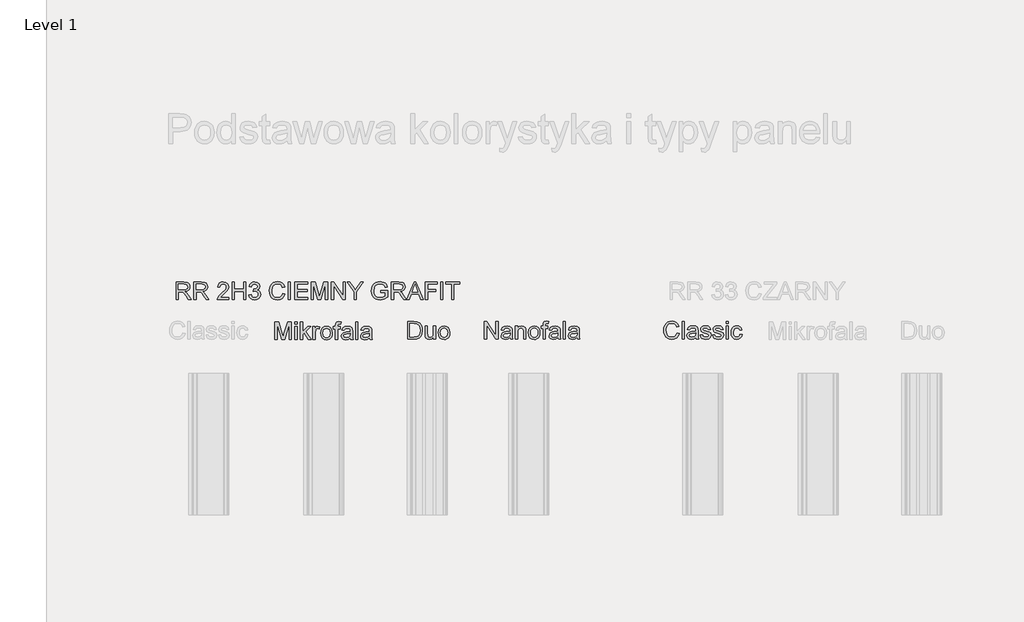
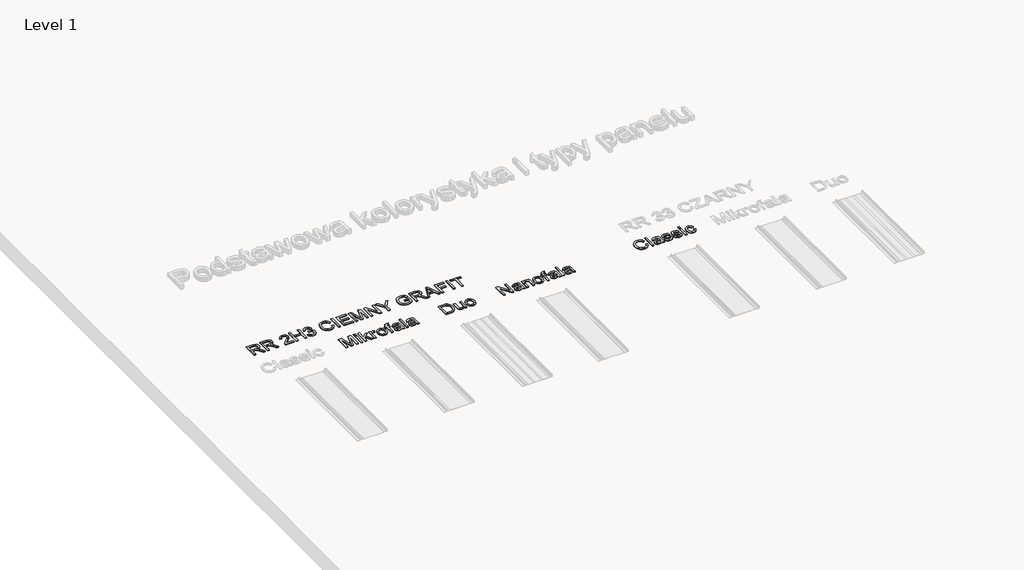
# One storey, part 19 of 24: 5 proxies.
"""IFC4 building model written with IfcOpenShell, lengths in millimetres."""

from ifc_helpers import new_model, si_unit, frame, origin, place, context, project, spatial, polyline, outline, extrude, element, save

model = new_model("IFC4")

# Units and contexts
model_context = context("Model", 3, world=origin())
ifc_project = project(units=[si_unit("LENGTHUNIT", "METRE", prefix="MILLI")], contexts=[model_context])

# Site, building, storey
site = spatial("IfcSite", under=ifc_project)
building = spatial("IfcBuilding", under=site)
storey = spatial("IfcBuildingStorey", under=building, Name="Level 1", Elevation=0.0)

# Proxies
placement = place(None, origin())
element("IfcBuildingElementProxy", 1, Name="150", ObjectType="150", at=placement, inside=storey, context=model_context, shape_type="SweptSolid", body=[
    extrude(outline(polyline([(-7895.6654959, 1124.718613), (-7895.6654959, 1275.4030782), (-7863.3654568, 1275.4030782), (-7832.4633692, 1169.1955462), (-7826.2093753, 1147.0122619), (-7819.4771347, 1171.0349562), (-7789.1636583, 1275.4030782), (-7756.7532546, 1275.4030782), (-7756.7532546, 1124.718613), (-7775.5888127, 1124.718613), (-7775.5888127, 1256.5675201), (-7813.44387, 1124.718613), (-7838.9380923, 1124.718613), (-7876.8299378, 1256.5675201), (-7876.8299378, 1124.718613), (-7895.6654959, 1124.718613)])), frame((0.0, 0.0, 600.0), z_axis=(0.0, 0.0, 1.0), x_axis=(1.0, 0.0, 0.0)), (0.0, 0.0, 1.0), 10.0),
    extrude(outline(polyline([(-7726.1454726, 1256.5675201), (-7726.1454726, 1275.4030782), (-7707.3099144, 1275.4030782), (-7707.3099144, 1256.5675201), (-7726.1454726, 1256.5675201)])), frame((0.0, 0.0, 600.0), z_axis=(0.0, 0.0, 1.0), x_axis=(1.0, 0.0, 0.0)), (0.0, 0.0, 1.0), 10.0),
    extrude(outline(polyline([(-7726.1454726, 1124.718613), (-7726.1454726, 1235.3775171), (-7707.3099144, 1235.3775171), (-7707.3099144, 1124.718613), (-7726.1454726, 1124.718613)])), frame((0.0, 0.0, 600.0), z_axis=(0.0, 0.0, 1.0), x_axis=(1.0, 0.0, 0.0)), (0.0, 0.0, 1.0), 10.0),
    extrude(outline(polyline([(-7679.0565772, 1124.718613), (-7679.0565772, 1275.4030782), (-7660.221019, 1275.4030782), (-7660.221019, 1194.4322511), (-7617.988166, 1235.3775171), (-7591.9421207, 1235.3775171), (-7634.7267968, 1193.9172163), (-7589.587676, 1124.718613), (-7611.5870193, 1124.718613), (-7648.228066, 1180.8206173), (-7660.221019, 1169.158758), (-7660.221019, 1124.718613), (-7679.0565772, 1124.718613)])), frame((0.0, 0.0, 600.0), z_axis=(0.0, 0.0, 1.0), x_axis=(1.0, 0.0, 0.0)), (0.0, 0.0, 1.0), 10.0),
    extrude(outline(polyline([(-7573.1065626, 1124.718613), (-7573.1065626, 1235.3775171), (-7556.6254492, 1235.3775171), (-7556.6254492, 1219.0067684), (-7544.9268017, 1234.0899302), (-7533.1545779, 1237.7319619), (-7514.2454433, 1231.9194264), (-7520.5362255, 1215.0336428), (-7533.7799773, 1218.8964038), (-7544.4301611, 1215.1807956), (-7551.2175839, 1204.8800997), (-7554.2710044, 1182.8807564), (-7554.2710044, 1124.718613), (-7573.1065626, 1124.718613)])), frame((0.0, 0.0, 600.0), z_axis=(0.0, 0.0, 1.0), x_axis=(1.0, 0.0, 0.0)), (0.0, 0.0, 1.0), 10.0),
    extrude(outline(polyline([(-7507.182109, 1180.0480651), (-7503.1078159, 1206.7287068), (-7490.8849367, 1225.4814915), (-7475.7833808, 1234.6693443), (-7457.7019807, 1237.7319619), (-7437.9145279, 1234.0025582), (-7422.1093977, 1222.814347), (-7411.748921, 1205.0502452), (-7408.2954287, 1181.5931694), (-7409.822139, 1162.5644732), (-7414.4022699, 1148.0791197), (-7421.902464, 1137.2311993), (-7432.1893643, 1129.1148028), (-7444.4076451, 1124.0518269), (-7457.7019807, 1122.3641682), (-7477.7285568, 1126.0797764), (-7493.5152929, 1137.2266008), (-7503.765405, 1155.3631832), (-7507.182109, 1180.0480651)]), holes=[polyline([(-7488.3465509, 1180.0848533), (-7486.1668501, 1163.0381213), (-7479.6277476, 1150.8934169), (-7469.7869042, 1143.623149), (-7457.7019807, 1141.1997264), (-7445.6722394, 1143.6369446), (-7435.8497902, 1150.9485992), (-7429.3106877, 1163.254252), (-7427.1309869, 1180.6734645), (-7429.3244833, 1197.2235557), (-7435.9049725, 1209.2027132), (-7445.7412173, 1216.4729811), (-7457.7019807, 1218.8964038), (-7469.7869042, 1216.4821782), (-7479.6277476, 1209.2395014), (-7486.1668501, 1197.1223882), (-7488.3465509, 1180.0848533)])]), frame((0.0, 0.0, 600.0), z_axis=(0.0, 0.0, 1.0), x_axis=(1.0, 0.0, 0.0)), (0.0, 0.0, 1.0), 10.0),
    extrude(outline(polyline([(-7382.3965363, 1124.718613), (-7382.3965363, 1216.541959), (-7398.8776497, 1216.541959), (-7398.8776497, 1235.3775171), (-7382.3965363, 1235.3775171), (-7382.3965363, 1246.5243416), (-7380.4099735, 1262.2329028), (-7370.7714652, 1273.4533036), (-7351.7887543, 1277.757523), (-7334.6086651, 1275.6973838), (-7337.3677801, 1258.039048), (-7348.2202989, 1258.9219648), (-7360.0844933, 1255.7949679), (-7363.5609781, 1244.1331086), (-7363.5609781, 1235.3775171), (-7342.3709752, 1235.3775171), (-7342.3709752, 1216.541959), (-7363.5609781, 1216.541959), (-7363.5609781, 1124.718613), (-7382.3965363, 1124.718613)])), frame((0.0, 0.0, 600.0), z_axis=(0.0, 0.0, 1.0), x_axis=(1.0, 0.0, 0.0)), (0.0, 0.0, 1.0), 10.0),
    extrude(outline(polyline([(-7255.2565187, 1138.8452816), (-7273.5218598, 1126.0797764), (-7293.7001872, 1122.3641682), (-7309.4409381, 1124.5990513), (-7321.0522136, 1131.3037007), (-7328.2121169, 1141.4848349), (-7330.5987514, 1154.1491726), (-7326.9935078, 1169.0483934), (-7317.5205464, 1179.8641241), (-7304.3319769, 1186.0445416), (-7288.0348045, 1188.8772329), (-7255.3668833, 1195.3519561), (-7255.2565187, 1199.5458108), (-7256.5533028, 1207.9519144), (-7260.4436549, 1213.4517502), (-7269.1440641, 1217.5352404), (-7281.2657758, 1218.8964038), (-7300.3220632, 1215.2727661), (-7309.4087484, 1202.4152904), (-7328.2443066, 1204.7697351), (-7320.0957204, 1223.1638349), (-7303.6881834, 1233.9427774), (-7278.8377546, 1237.7319619), (-7256.0106768, 1234.3842357), (-7243.1164129, 1225.9781322), (-7237.3406656, 1213.1942328), (-7236.4209606, 1196.7131194), (-7236.4209606, 1173.2790364), (-7235.4644674, 1140.5559329), (-7231.7120711, 1124.718613), (-7250.5476292, 1124.718613), (-7255.2565187, 1138.8452816)]), holes=[polyline([(-7255.2565187, 1176.5163979), (-7285.6435715, 1170.7406506), (-7301.8487734, 1167.68723), (-7309.1880192, 1162.7208231), (-7311.7631932, 1155.4735478), (-7306.1529928, 1145.2832165), (-7289.6902735, 1141.1997264), (-7270.6339861, 1145.7062808), (-7258.3467275, 1156.613982), (-7255.3668833, 1171.182109), (-7255.2565187, 1176.5163979)])]), frame((0.0, 0.0, 600.0), z_axis=(0.0, 0.0, 1.0), x_axis=(1.0, 0.0, 0.0)), (0.0, 0.0, 1.0), 10.0),
    extrude(outline(polyline([(-7210.5220681, 1124.718613), (-7210.5220681, 1275.4030782), (-7191.68651, 1275.4030782), (-7191.68651, 1124.718613), (-7210.5220681, 1124.718613)])), frame((0.0, 0.0, 600.0), z_axis=(0.0, 0.0, 1.0), x_axis=(1.0, 0.0, 0.0)), (0.0, 0.0, 1.0), 10.0),
    extrude(outline(polyline([(-7092.7998297, 1138.8452816), (-7111.0651707, 1126.0797764), (-7131.2434982, 1122.3641682), (-7146.984249, 1124.5990513), (-7158.5955245, 1131.3037007), (-7165.7554278, 1141.4848349), (-7168.1420623, 1154.1491726), (-7164.5368187, 1169.0483934), (-7155.0638574, 1179.8641241), (-7141.8752878, 1186.0445416), (-7125.5781154, 1188.8772329), (-7092.9101943, 1195.3519561), (-7092.7998297, 1199.5458108), (-7094.0966137, 1207.9519144), (-7097.9869658, 1213.4517502), (-7106.687375, 1217.5352404), (-7118.8090867, 1218.8964038), (-7137.8653741, 1215.2727661), (-7146.9520594, 1202.4152904), (-7165.7876175, 1204.7697351), (-7157.6390313, 1223.1638349), (-7141.2314943, 1233.9427774), (-7116.3810656, 1237.7319619), (-7093.5539878, 1234.3842357), (-7080.6597238, 1225.9781322), (-7074.8839765, 1213.1942328), (-7073.9642715, 1196.7131194), (-7073.9642715, 1173.2790364), (-7073.0077783, 1140.5559329), (-7069.255382, 1124.718613), (-7088.0909401, 1124.718613), (-7092.7998297, 1138.8452816)]), holes=[polyline([(-7092.7998297, 1176.5163979), (-7123.1868825, 1170.7406506), (-7139.3920844, 1167.68723), (-7146.7313302, 1162.7208231), (-7149.3065041, 1155.4735478), (-7143.6963037, 1145.2832165), (-7127.2335844, 1141.1997264), (-7108.1772971, 1145.7062808), (-7095.8900384, 1156.613982), (-7092.9101943, 1171.182109), (-7092.7998297, 1176.5163979)])]), frame((0.0, 0.0, 600.0), z_axis=(0.0, 0.0, 1.0), x_axis=(1.0, 0.0, 0.0)), (0.0, 0.0, 1.0), 10.0),
])
element("IfcBuildingElementProxy", 2, Name="150", ObjectType="150", at=placement, inside=storey, context=model_context, shape_type="SweptSolid", body=[
    extrude(outline(polyline([(-6767.5807075, 1127.8407532), (-6767.5807075, 1278.5252184), (-6715.5989816, 1278.5252184), (-6688.7068077, 1276.3547147), (-6666.5603116, 1265.5757722), (-6656.1400541, 1254.097854), (-6648.7180349, 1239.8240325), (-6644.2758598, 1223.0302195), (-6642.7951347, 1203.9923262), (-6646.8050485, 1173.5868793), (-6657.1057443, 1151.6427183), (-6670.864531, 1137.9759022), (-6688.8723546, 1130.4159272), (-6713.097384, 1127.8407532), (-6767.5807075, 1127.8407532)]), holes=[polyline([(-6748.7451493, 1146.6763114), (-6715.4150406, 1146.6763114), (-6691.1716171, 1149.3986381), (-6677.1921013, 1157.0873718), (-6665.7325771, 1175.7941713), (-6661.6306929, 1204.2866318), (-6663.6402483, 1224.8144471), (-6669.6689145, 1239.9711853), (-6678.5762573, 1250.3822458), (-6689.2218425, 1256.6730279), (-6715.9300754, 1259.6896603), (-6748.7451493, 1259.6896603), (-6748.7451493, 1146.6763114)])]), frame((0.0, 0.0, 600.0), z_axis=(0.0, 0.0, 1.0), x_axis=(1.0, 0.0, 0.0)), (0.0, 0.0, 1.0), 10.0),
    extrude(outline(polyline([(-6548.617344, 1127.8407532), (-6548.617344, 1146.8602524), (-6563.369412, 1130.8297944), (-6582.6096403, 1125.4863084), (-6600.3231584, 1129.2387048), (-6612.5368406, 1138.6564839), (-6618.1470411, 1152.5256351), (-6619.250687, 1170.0368181), (-6619.250687, 1238.4996574), (-6600.4151289, 1238.4996574), (-6600.4151289, 1178.9027741), (-6599.2746947, 1159.699334), (-6591.8250843, 1148.4237508), (-6577.7903862, 1144.3218666), (-6562.0634309, 1148.5157213), (-6551.6707645, 1159.9384573), (-6548.617344, 1180.9261251), (-6548.617344, 1238.4996574), (-6529.7817858, 1238.4996574), (-6529.7817858, 1127.8407532), (-6548.617344, 1127.8407532)])), frame((0.0, 0.0, 600.0), z_axis=(0.0, 0.0, 1.0), x_axis=(1.0, 0.0, 0.0)), (0.0, 0.0, 1.0), 10.0),
    extrude(outline(polyline([(-6508.5917829, 1183.1702053), (-6504.5174898, 1209.850847), (-6492.2946105, 1228.6036317), (-6477.1930546, 1237.7914845), (-6459.1116545, 1240.8541021), (-6439.3242017, 1237.1246984), (-6423.5190715, 1225.9364872), (-6413.1585948, 1208.1723854), (-6409.7051026, 1184.7153097), (-6411.2318129, 1165.6866135), (-6415.8119437, 1151.2012599), (-6423.3121379, 1140.3533396), (-6433.5990382, 1132.2369431), (-6445.8173189, 1127.1739671), (-6459.1116545, 1125.4863084), (-6479.1382307, 1129.2019166), (-6494.9249668, 1140.348741), (-6505.1750789, 1158.4853234), (-6508.5917829, 1183.1702053)]), holes=[polyline([(-6489.7562247, 1183.2069935), (-6487.5765239, 1166.1602615), (-6481.0374215, 1154.0155572), (-6471.1965781, 1146.7452892), (-6459.1116545, 1144.3218666), (-6447.0819133, 1146.7590848), (-6437.259464, 1154.0707395), (-6430.7203616, 1166.3763922), (-6428.5406607, 1183.7956047), (-6430.7341571, 1200.3456959), (-6437.3146463, 1212.3248534), (-6447.1508912, 1219.5951213), (-6459.1116545, 1222.018544), (-6471.1965781, 1219.6043184), (-6481.0374215, 1212.3616416), (-6487.5765239, 1200.2445284), (-6489.7562247, 1183.2069935)])]), frame((0.0, 0.0, 600.0), z_axis=(0.0, 0.0, 1.0), x_axis=(1.0, 0.0, 0.0)), (0.0, 0.0, 1.0), 10.0),
])
element("IfcBuildingElementProxy", 3, Name="150", ObjectType="150", at=placement, inside=storey, context=model_context, shape_type="SweptSolid", body=[
    extrude(outline(polyline([(-4479.0085992, 1182.8181359), (-4460.1730411, 1177.9620936), (-4468.8642532, 1156.013334), (-4482.5034782, 1139.9782776), (-4500.4193314, 1130.1696239), (-4521.9404281, 1126.9000726), (-4543.7880201, 1129.3740791), (-4561.1382547, 1136.7960983), (-4574.4371888, 1148.908613), (-4584.1308794, 1165.4541057), (-4590.049181, 1184.9058662), (-4592.0219482, 1205.7371842), (-4589.7916636, 1227.7089364), (-4583.1008098, 1246.6824503), (-4572.2988747, 1262.0553191), (-4557.7353462, 1273.2251362), (-4540.4632865, 1280.0263546), (-4521.5357579, 1282.2934274), (-4500.8837824, 1279.3595685), (-4483.8094593, 1270.5579918), (-4470.8462175, 1256.4313231), (-4462.5274859, 1237.5221886), (-4481.363044, 1233.0340282), (-4487.8929494, 1246.7698222), (-4496.8140878, 1256.1921998), (-4508.2368238, 1261.6414519), (-4522.2715219, 1263.4578692), (-4538.4491326, 1261.4437153), (-4551.7388697, 1255.4012536), (-4561.8234349, 1245.9650804), (-4568.38553, 1233.7697922), (-4573.18639, 1205.7739724), (-4571.7654458, 1188.373154), (-4567.5026132, 1173.3267804), (-4560.2369438, 1161.2096672), (-4549.8074892, 1152.59663), (-4537.3040999, 1147.4508806), (-4523.8166263, 1145.7356308), (-4508.0942695, 1148.0716815), (-4494.9930719, 1155.0798335), (-4485.1016448, 1166.6865104), (-4479.0085992, 1182.8181359)])), frame((0.0, 0.0, 600.0), z_axis=(0.0, 0.0, 1.0), x_axis=(1.0, 0.0, 0.0)), (0.0, 0.0, 1.0), 10.0),
    extrude(outline(polyline([(-4436.6285934, 1129.2545174), (-4436.6285934, 1279.9389826), (-4417.7930352, 1279.9389826), (-4417.7930352, 1129.2545174), (-4436.6285934, 1129.2545174)])), frame((0.0, 0.0, 600.0), z_axis=(0.0, 0.0, 1.0), x_axis=(1.0, 0.0, 0.0)), (0.0, 0.0, 1.0), 10.0),
    extrude(outline(polyline([(-4318.9063549, 1143.381186), (-4337.171696, 1130.6156808), (-4357.3500234, 1126.9000726), (-4373.0907743, 1129.1349558), (-4384.7020498, 1135.8396051), (-4391.8619531, 1146.0207393), (-4394.2485875, 1158.685077), (-4390.643344, 1173.5842978), (-4381.1703826, 1184.4000285), (-4367.9818131, 1190.580446), (-4351.6846407, 1193.4131374), (-4319.0167195, 1199.8878605), (-4318.9063549, 1204.0817152), (-4320.203139, 1212.4878188), (-4324.0934911, 1217.9876546), (-4332.7939003, 1222.0711448), (-4344.915612, 1223.4323082), (-4363.9718993, 1219.8086705), (-4373.0585846, 1206.9511948), (-4391.8941428, 1209.3056396), (-4383.7455566, 1227.6997393), (-4367.3380196, 1238.4786818), (-4342.4875908, 1242.2678663), (-4319.660513, 1238.9201402), (-4306.7662491, 1230.5140366), (-4300.9905018, 1217.7301372), (-4300.0707968, 1201.2490239), (-4300.0707968, 1177.8149408), (-4299.1143036, 1145.0918373), (-4295.3619072, 1129.2545174), (-4314.1974654, 1129.2545174), (-4318.9063549, 1143.381186)]), holes=[polyline([(-4318.9063549, 1181.0523023), (-4349.2934077, 1175.276555), (-4365.4986096, 1172.2231344), (-4372.8378554, 1167.2567275), (-4375.4130294, 1160.0094522), (-4369.802829, 1149.8191209), (-4353.3401097, 1145.7356308), (-4334.2838223, 1150.2421852), (-4321.9965637, 1161.1498864), (-4319.0167195, 1175.7180134), (-4318.9063549, 1181.0523023)])]), frame((0.0, 0.0, 600.0), z_axis=(0.0, 0.0, 1.0), x_axis=(1.0, 0.0, 0.0)), (0.0, 0.0, 1.0), 10.0),
    extrude(outline(polyline([(-4281.2352386, 1162.2167442), (-4262.3996805, 1164.5711889), (-4259.4290334, 1156.5145732), (-4253.6808772, 1150.5916731), (-4233.7048849, 1145.7356308), (-4214.5014447, 1150.1870029), (-4208.2474508, 1160.6348516), (-4209.8201463, 1165.4357116), (-4214.5382329, 1169.0961375), (-4233.9256141, 1174.4672146), (-4262.2893159, 1183.6826586), (-4274.668545, 1194.4432069), (-4278.8807939, 1209.6367334), (-4275.4962795, 1223.6714315), (-4266.2624414, 1234.3951916), (-4254.2878825, 1239.9686039), (-4238.0826806, 1242.2678663), (-4215.1636323, 1238.5706523), (-4200.5955053, 1228.564262), (-4194.1207822, 1211.6600843), (-4212.9563403, 1209.3056396), (-4220.0380687, 1219.6983059), (-4236.6111526, 1223.4323082), (-4254.6373704, 1219.8638528), (-4260.0452357, 1211.5497197), (-4257.8011555, 1206.068278), (-4250.7746094, 1201.9112115), (-4234.5510134, 1197.9012977), (-4206.9046815, 1189.0353416), (-4194.0655999, 1178.9921632), (-4189.4118926, 1162.6214144), (-4194.8749403, 1144.5951966), (-4210.6386838, 1131.5169917), (-4233.9624023, 1126.9000726), (-4252.9543103, 1129.1257587), (-4266.8142644, 1135.8028169), (-4276.0664966, 1146.8576709), (-4281.2352386, 1162.2167442)])), frame((0.0, 0.0, 600.0), z_axis=(0.0, 0.0, 1.0), x_axis=(1.0, 0.0, 0.0)), (0.0, 0.0, 1.0), 10.0),
    extrude(outline(polyline([(-4175.285224, 1162.2167442), (-4156.4496659, 1164.5711889), (-4153.4790188, 1156.5145732), (-4147.7308626, 1150.5916731), (-4127.7548702, 1145.7356308), (-4108.5514301, 1150.1870029), (-4102.2974362, 1160.6348516), (-4103.8701317, 1165.4357116), (-4108.5882183, 1169.0961375), (-4127.9755994, 1174.4672146), (-4156.3393013, 1183.6826586), (-4168.7185304, 1194.4432069), (-4172.9307793, 1209.6367334), (-4169.5462649, 1223.6714315), (-4160.3124268, 1234.3951916), (-4148.3378679, 1239.9686039), (-4132.132666, 1242.2678663), (-4109.2136177, 1238.5706523), (-4094.6454907, 1228.564262), (-4088.1707676, 1211.6600843), (-4107.0063257, 1209.3056396), (-4114.0880541, 1219.6983059), (-4130.661138, 1223.4323082), (-4148.6873558, 1219.8638528), (-4154.0952211, 1211.5497197), (-4151.8511409, 1206.068278), (-4144.8245948, 1201.9112115), (-4128.6009988, 1197.9012977), (-4100.9546669, 1189.0353416), (-4088.1155853, 1178.9921632), (-4083.461878, 1162.6214144), (-4088.9249257, 1144.5951966), (-4104.6886691, 1131.5169917), (-4128.0123876, 1126.9000726), (-4147.0042956, 1129.1257587), (-4160.8642498, 1135.8028169), (-4170.116482, 1146.8576709), (-4175.285224, 1162.2167442)])), frame((0.0, 0.0, 600.0), z_axis=(0.0, 0.0, 1.0), x_axis=(1.0, 0.0, 0.0)), (0.0, 0.0, 1.0), 10.0),
    extrude(outline(polyline([(-4062.2718751, 1261.1034245), (-4062.2718751, 1279.9389826), (-4043.4363169, 1279.9389826), (-4043.4363169, 1261.1034245), (-4062.2718751, 1261.1034245)])), frame((0.0, 0.0, 600.0), z_axis=(0.0, 0.0, 1.0), x_axis=(1.0, 0.0, 0.0)), (0.0, 0.0, 1.0), 10.0),
    extrude(outline(polyline([(-4062.2718751, 1129.2545174), (-4062.2718751, 1239.9134216), (-4043.4363169, 1239.9134216), (-4043.4363169, 1129.2545174), (-4062.2718751, 1129.2545174)])), frame((0.0, 0.0, 600.0), z_axis=(0.0, 0.0, 1.0), x_axis=(1.0, 0.0, 0.0)), (0.0, 0.0, 1.0), 10.0),
    extrude(outline(polyline([(-3944.5496366, 1169.2800785), (-3925.7140785, 1166.9256337), (-3930.965594, 1150.1732074), (-3940.8340285, 1137.5134682), (-3954.39048, 1129.5534215), (-3970.7060465, 1126.9000726), (-3990.7418197, 1130.6018852), (-4006.4089941, 1141.7073229), (-4016.5211505, 1159.7289422), (-4019.8918693, 1184.1792993), (-4018.452531, 1200.9409227), (-4014.134516, 1215.467663), (-4006.8688466, 1227.1985001), (-3996.5865449, 1235.572414), (-3984.2854906, 1240.5940032), (-3970.9635639, 1242.2678663), (-3955.0480691, 1239.9686039), (-3942.3239506, 1233.0708164), (-3933.1958786, 1221.9423861), (-3928.0685233, 1206.9511948), (-3946.9040814, 1204.59675), (-3955.6412788, 1218.7050245), (-3970.8164111, 1223.4323082), (-3982.9887066, 1221.1054546), (-3992.6502075, 1214.1248937), (-3998.9547852, 1202.1135465), (-4001.0563111, 1184.6943341), (-3999.0007705, 1167.0405968), (-3992.8341485, 1154.987863), (-3983.3473916, 1148.0486888), (-3971.3314459, 1145.7356308), (-3961.5779745, 1147.1795676), (-3953.5811396, 1151.5113781), (-3947.7640056, 1158.8414269), (-3944.5496366, 1169.2800785)])), frame((0.0, 0.0, 600.0), z_axis=(0.0, 0.0, 1.0), x_axis=(1.0, 0.0, 0.0)), (0.0, 0.0, 1.0), 10.0),
])
element("IfcBuildingElementProxy", 4, Name="150", ObjectType="150", at=placement, inside=storey, context=model_context, shape_type="SweptSolid", body=[
    extrude(outline(polyline([(-6116.7806572, 1127.8407532), (-6116.7806572, 1278.5252184), (-6096.6207239, 1278.5252184), (-6017.8939769, 1159.147511), (-6017.8939769, 1278.5252184), (-5999.0584188, 1278.5252184), (-5999.0584188, 1127.8407532), (-6019.2183521, 1127.8407532), (-6097.9450991, 1247.2552488), (-6097.9450991, 1127.8407532), (-6116.7806572, 1127.8407532)])), frame((0.0, 0.0, 600.0), z_axis=(0.0, 0.0, 1.0), x_axis=(1.0, 0.0, 0.0)), (0.0, 0.0, 1.0), 10.0),
    extrude(outline(polyline([(-5897.8172937, 1141.9674218), (-5916.0826347, 1129.2019166), (-5936.2609622, 1125.4863084), (-5952.001713, 1127.7211916), (-5963.6129885, 1134.4258409), (-5970.7728919, 1144.6069751), (-5973.1595263, 1157.2713128), (-5969.5542827, 1172.1705336), (-5960.0813214, 1182.9862643), (-5946.8927518, 1189.1666818), (-5930.5955795, 1191.9993732), (-5897.9276583, 1198.4740963), (-5897.8172937, 1202.667951), (-5899.1140777, 1211.0740546), (-5903.0044298, 1216.5738904), (-5911.704839, 1220.6573806), (-5923.8265507, 1222.018544), (-5942.8828381, 1218.3949063), (-5951.9695234, 1205.5374306), (-5970.8050815, 1207.8918754), (-5962.6564953, 1226.2859751), (-5946.2489583, 1237.0649176), (-5921.3985296, 1240.8541021), (-5898.5714518, 1237.506376), (-5885.6771878, 1229.1002724), (-5879.9014405, 1216.316373), (-5878.9817355, 1199.8352597), (-5878.9817355, 1176.4011766), (-5878.0252423, 1143.6780731), (-5874.272846, 1127.8407532), (-5893.1084041, 1127.8407532), (-5897.8172937, 1141.9674218)]), holes=[polyline([(-5897.8172937, 1179.6385381), (-5928.2043465, 1173.8627908), (-5944.4095484, 1170.8093702), (-5951.7487942, 1165.8429633), (-5954.3239681, 1158.595688), (-5948.7137677, 1148.4053567), (-5932.2510484, 1144.3218666), (-5913.1947611, 1148.828421), (-5900.9075024, 1159.7361222), (-5897.9276583, 1174.3042492), (-5897.8172937, 1179.6385381)])]), frame((0.0, 0.0, 600.0), z_axis=(0.0, 0.0, 1.0), x_axis=(1.0, 0.0, 0.0)), (0.0, 0.0, 1.0), 10.0),
    extrude(outline(polyline([(-5853.0828431, 1127.8407532), (-5853.0828431, 1238.4996574), (-5834.2472849, 1238.4996574), (-5834.2472849, 1223.0486136), (-5819.8447048, 1236.40273), (-5800.1814122, 1240.8541021), (-5782.3943177, 1237.2672527), (-5770.2542119, 1227.8494736), (-5764.6072232, 1213.9987165), (-5763.6139418, 1195.7885577), (-5763.6139418, 1127.8407532), (-5782.4495, 1127.8407532), (-5782.4495, 1193.250172), (-5784.6200038, 1209.9152263), (-5792.2903434, 1218.7260001), (-5805.2213955, 1222.018544), (-5816.2532568, 1220.1699369), (-5825.6572403, 1214.6241159), (-5832.0997738, 1203.9095528), (-5834.2472849, 1186.5547196), (-5834.2472849, 1127.8407532), (-5853.0828431, 1127.8407532)])), frame((0.0, 0.0, 600.0), z_axis=(0.0, 0.0, 1.0), x_axis=(1.0, 0.0, 0.0)), (0.0, 0.0, 1.0), 10.0),
    extrude(outline(polyline([(-5742.4239389, 1183.1702053), (-5738.3496458, 1209.850847), (-5726.1267665, 1228.6036317), (-5711.0252106, 1237.7914845), (-5692.9438106, 1240.8541021), (-5673.1563578, 1237.1246984), (-5657.3512275, 1225.9364872), (-5646.9907508, 1208.1723854), (-5643.5372586, 1184.7153097), (-5645.0639689, 1165.6866135), (-5649.6440997, 1151.2012599), (-5657.1442939, 1140.3533396), (-5667.4311942, 1132.2369431), (-5679.649475, 1127.1739671), (-5692.9438106, 1125.4863084), (-5712.9703867, 1129.2019166), (-5728.7571228, 1140.348741), (-5739.0072349, 1158.4853234), (-5742.4239389, 1183.1702053)]), holes=[polyline([(-5723.5883808, 1183.2069935), (-5721.4086799, 1166.1602615), (-5714.8695775, 1154.0155572), (-5705.0287341, 1146.7452892), (-5692.9438106, 1144.3218666), (-5680.9140693, 1146.7590848), (-5671.0916201, 1154.0707395), (-5664.5525176, 1166.3763922), (-5662.3728168, 1183.7956047), (-5664.5663132, 1200.3456959), (-5671.1468024, 1212.3248534), (-5680.9830472, 1219.5951213), (-5692.9438106, 1222.018544), (-5705.0287341, 1219.6043184), (-5714.8695775, 1212.3616416), (-5721.4086799, 1200.2445284), (-5723.5883808, 1183.2069935)])]), frame((0.0, 0.0, 600.0), z_axis=(0.0, 0.0, 1.0), x_axis=(1.0, 0.0, 0.0)), (0.0, 0.0, 1.0), 10.0),
    extrude(outline(polyline([(-5617.6383662, 1127.8407532), (-5617.6383662, 1219.6640992), (-5634.1194795, 1219.6640992), (-5634.1194795, 1238.4996574), (-5617.6383662, 1238.4996574), (-5617.6383662, 1249.6464818), (-5615.6518034, 1265.355043), (-5606.0132951, 1276.5754439), (-5587.0305842, 1280.8796632), (-5569.850495, 1278.819524), (-5572.6096099, 1261.1611883), (-5583.4621288, 1262.044105), (-5595.3263231, 1258.9171081), (-5598.802808, 1247.2552488), (-5598.802808, 1238.4996574), (-5577.6128051, 1238.4996574), (-5577.6128051, 1219.6640992), (-5598.802808, 1219.6640992), (-5598.802808, 1127.8407532), (-5617.6383662, 1127.8407532)])), frame((0.0, 0.0, 600.0), z_axis=(0.0, 0.0, 1.0), x_axis=(1.0, 0.0, 0.0)), (0.0, 0.0, 1.0), 10.0),
    extrude(outline(polyline([(-5490.4983486, 1141.9674218), (-5508.7636897, 1129.2019166), (-5528.9420171, 1125.4863084), (-5544.682768, 1127.7211916), (-5556.2940435, 1134.4258409), (-5563.4539468, 1144.6069751), (-5565.8405812, 1157.2713128), (-5562.2353377, 1172.1705336), (-5552.7623763, 1182.9862643), (-5539.5738068, 1189.1666818), (-5523.2766344, 1191.9993732), (-5490.6087132, 1198.4740963), (-5490.4983486, 1202.667951), (-5491.7951327, 1211.0740546), (-5495.6854848, 1216.5738904), (-5504.3858939, 1220.6573806), (-5516.5076057, 1222.018544), (-5535.563893, 1218.3949063), (-5544.6505783, 1205.5374306), (-5563.4861365, 1207.8918754), (-5555.3375503, 1226.2859751), (-5538.9300133, 1237.0649176), (-5514.0795845, 1240.8541021), (-5491.2525067, 1237.506376), (-5478.3582428, 1229.1002724), (-5472.5824955, 1216.316373), (-5471.6627905, 1199.8352597), (-5471.6627905, 1176.4011766), (-5470.7062973, 1143.6780731), (-5466.9539009, 1127.8407532), (-5485.7894591, 1127.8407532), (-5490.4983486, 1141.9674218)]), holes=[polyline([(-5490.4983486, 1179.6385381), (-5520.8854014, 1173.8627908), (-5537.0906033, 1170.8093702), (-5544.4298491, 1165.8429633), (-5547.0050231, 1158.595688), (-5541.3948227, 1148.4053567), (-5524.9321034, 1144.3218666), (-5505.875816, 1148.828421), (-5493.5885574, 1159.7361222), (-5490.6087132, 1174.3042492), (-5490.4983486, 1179.6385381)])]), frame((0.0, 0.0, 600.0), z_axis=(0.0, 0.0, 1.0), x_axis=(1.0, 0.0, 0.0)), (0.0, 0.0, 1.0), 10.0),
    extrude(outline(polyline([(-5445.763898, 1127.8407532), (-5445.763898, 1278.5252184), (-5426.9283399, 1278.5252184), (-5426.9283399, 1127.8407532), (-5445.763898, 1127.8407532)])), frame((0.0, 0.0, 600.0), z_axis=(0.0, 0.0, 1.0), x_axis=(1.0, 0.0, 0.0)), (0.0, 0.0, 1.0), 10.0),
    extrude(outline(polyline([(-5328.0416596, 1141.9674218), (-5346.3070006, 1129.2019166), (-5366.485328, 1125.4863084), (-5382.2260789, 1127.7211916), (-5393.8373544, 1134.4258409), (-5400.9972577, 1144.6069751), (-5403.3838922, 1157.2713128), (-5399.7786486, 1172.1705336), (-5390.3056872, 1182.9862643), (-5377.1171177, 1189.1666818), (-5360.8199453, 1191.9993732), (-5328.1520242, 1198.4740963), (-5328.0416596, 1202.667951), (-5329.3384436, 1211.0740546), (-5333.2287957, 1216.5738904), (-5341.9292049, 1220.6573806), (-5354.0509166, 1222.018544), (-5373.107204, 1218.3949063), (-5382.1938892, 1205.5374306), (-5401.0294474, 1207.8918754), (-5392.8808612, 1226.2859751), (-5376.4733242, 1237.0649176), (-5351.6228954, 1240.8541021), (-5328.7958176, 1237.506376), (-5315.9015537, 1229.1002724), (-5310.1258064, 1216.316373), (-5309.2061014, 1199.8352597), (-5309.2061014, 1176.4011766), (-5308.2496082, 1143.6780731), (-5304.4972119, 1127.8407532), (-5323.33277, 1127.8407532), (-5328.0416596, 1141.9674218)]), holes=[polyline([(-5328.0416596, 1179.6385381), (-5358.4287124, 1173.8627908), (-5374.6339142, 1170.8093702), (-5381.97316, 1165.8429633), (-5384.548334, 1158.595688), (-5378.9381336, 1148.4053567), (-5362.4754143, 1144.3218666), (-5343.419127, 1148.828421), (-5331.1318683, 1159.7361222), (-5328.1520242, 1174.3042492), (-5328.0416596, 1179.6385381)])]), frame((0.0, 0.0, 600.0), z_axis=(0.0, 0.0, 1.0), x_axis=(1.0, 0.0, 0.0)), (0.0, 0.0, 1.0), 10.0),
])
element("IfcBuildingElementProxy", 5, Name="150 Blue", ObjectType="150 Blue", at=placement, inside=storey, context=model_context, shape_type="SweptSolid", body=[
    extrude(outline(polyline([(-8736.4118342, 1464.3485888), (-8736.4118342, 1615.033054), (-8671.4806621, 1615.033054), (-8641.3327325, 1610.967958), (-8632.0529092, 1605.3393635), (-8624.8516192, 1596.583772), (-8620.2301016, 1585.7266546), (-8618.6895957, 1573.7934824), (-8621.2417771, 1558.9494439), (-8628.8983211, 1546.6437911), (-8641.8891541, 1537.6214852), (-8660.4442022, 1532.6274871), (-8649.7388361, 1524.5708714), (-8634.4717333, 1505.1834903), (-8609.3453931, 1464.3485888), (-8631.2343718, 1464.3485888), (-8650.8424821, 1495.5817702), (-8665.0059389, 1516.2567383), (-8674.9571469, 1526.0240053), (-8683.9150735, 1529.6108548), (-8694.8411687, 1530.2730423), (-8717.576276, 1530.2730423), (-8717.576276, 1464.3485888), (-8736.4118342, 1464.3485888)]), holes=[polyline([(-8717.576276, 1549.1086005), (-8675.4169994, 1549.1086005), (-8653.9142968, 1551.775745), (-8641.7006145, 1560.3106073), (-8637.5251539, 1573.0945066), (-8639.5163152, 1582.2823594), (-8645.4897991, 1589.6859846), (-8655.7675023, 1594.5696181), (-8670.6713217, 1596.1974959), (-8717.576276, 1596.1974959), (-8717.576276, 1549.1086005)])]), frame((0.0, 0.0, 600.0), z_axis=(0.0, 0.0, 1.0), x_axis=(1.0, 0.0, 0.0)), (0.0, 0.0, 1.0), 10.0),
    extrude(outline(polyline([(-8585.727369, 1464.3485888), (-8585.727369, 1615.033054), (-8520.7961968, 1615.033054), (-8490.6482673, 1610.967958), (-8481.368444, 1605.3393635), (-8474.1671539, 1596.583772), (-8469.5456364, 1585.7266546), (-8468.0051305, 1573.7934824), (-8470.5573119, 1558.9494439), (-8478.2138559, 1546.6437911), (-8491.2046888, 1537.6214852), (-8509.759737, 1532.6274871), (-8499.0543709, 1524.5708714), (-8483.7872681, 1505.1834903), (-8458.6609278, 1464.3485888), (-8480.5499066, 1464.3485888), (-8500.1580169, 1495.5817702), (-8514.3214737, 1516.2567383), (-8524.2726817, 1526.0240053), (-8533.2306083, 1529.6108548), (-8544.1567035, 1530.2730423), (-8566.8918108, 1530.2730423), (-8566.8918108, 1464.3485888), (-8585.727369, 1464.3485888)]), holes=[polyline([(-8566.8918108, 1549.1086005), (-8524.7325342, 1549.1086005), (-8503.2298316, 1551.775745), (-8491.0161493, 1560.3106073), (-8486.8406887, 1573.0945066), (-8488.83185, 1582.2823594), (-8494.8053339, 1589.6859846), (-8505.0830371, 1594.5696181), (-8519.9868564, 1596.1974959), (-8566.8918108, 1596.1974959), (-8566.8918108, 1549.1086005)])]), frame((0.0, 0.0, 600.0), z_axis=(0.0, 0.0, 1.0), x_axis=(1.0, 0.0, 0.0)), (0.0, 0.0, 1.0), 10.0),
    extrude(outline(polyline([(-8286.7128833, 1483.184147), (-8286.7128833, 1464.3485888), (-8385.5995636, 1464.3485888), (-8383.5762126, 1477.3348232), (-8372.1166885, 1497.3292097), (-8348.5170585, 1519.1630061), (-8316.0146842, 1550.5433403), (-8309.9308357, 1561.3590709), (-8307.9028862, 1571.880496), (-8309.8204711, 1581.3120707), (-8315.5732258, 1589.1525557), (-8324.4161893, 1594.4362608), (-8335.6044005, 1596.1974959), (-8347.3536317, 1594.4776476), (-8356.4817037, 1589.3181026), (-8362.3724141, 1581.1235311), (-8364.4095607, 1570.2986034), (-8383.2451188, 1572.6530482), (-8378.6787836, 1590.872404), (-8368.8057505, 1604.1805352), (-8354.1410545, 1612.3199243), (-8335.1997303, 1615.033054), (-8316.1204503, 1612.0164217), (-8301.4833454, 1602.9665246), (-8292.1713324, 1589.4468613), (-8289.0673281, 1573.0209302), (-8292.4150542, 1555.1602593), (-8303.5434846, 1536.6925832), (-8330.5276289, 1510.8856612), (-8352.1958784, 1492.7674729), (-8360.6939525, 1483.184147), (-8286.7128833, 1483.184147)])), frame((0.0, 0.0, 600.0), z_axis=(0.0, 0.0, 1.0), x_axis=(1.0, 0.0, 0.0)), (0.0, 0.0, 1.0), 10.0),
    extrude(outline(polyline([(-8260.8139908, 1464.3485888), (-8260.8139908, 1615.033054), (-8241.9784327, 1615.033054), (-8241.9784327, 1553.81749), (-8161.9273105, 1553.81749), (-8161.9273105, 1615.033054), (-8143.0917524, 1615.033054), (-8143.0917524, 1464.3485888), (-8161.9273105, 1464.3485888), (-8161.9273105, 1534.9819319), (-8241.9784327, 1534.9819319), (-8241.9784327, 1464.3485888), (-8260.8139908, 1464.3485888)])), frame((0.0, 0.0, 600.0), z_axis=(0.0, 0.0, 1.0), x_axis=(1.0, 0.0, 0.0)), (0.0, 0.0, 1.0), 10.0),
    extrude(outline(polyline([(-8117.1928599, 1504.3741499), (-8098.3573018, 1506.7285947), (-8094.1404544, 1494.8919915), (-8087.9646354, 1486.8997551), (-8079.5263421, 1482.3472154), (-8068.522072, 1480.8297022), (-8055.6094139, 1482.9174325), (-8045.6398119, 1489.1806235), (-8039.2662563, 1498.5248262), (-8037.1417378, 1509.8555916), (-8039.2478622, 1520.6115414), (-8045.5662355, 1529.3349433), (-8055.1311673, 1535.1152891), (-8066.9769676, 1537.0420711), (-8080.1839312, 1534.9819319), (-8078.0870038, 1553.81749), (-8075.0703715, 1553.5967608), (-8053.6964276, 1559.0046262), (-8046.5779109, 1565.8656254), (-8044.2050721, 1575.6328924), (-8045.9249204, 1583.767683), (-8051.0844654, 1590.3665663), (-8058.9571401, 1594.7397635), (-8068.8163776, 1596.1974959), (-8078.6940091, 1594.7259679), (-8086.7690189, 1590.311384), (-8092.6643279, 1582.9537441), (-8096.002857, 1572.6530482), (-8114.8384152, 1575.007493), (-8109.2925941, 1591.9208677), (-8099.4241596, 1604.5484172), (-8085.9228903, 1612.4118948), (-8069.4785651, 1615.033054), (-8046.7618519, 1609.864312), (-8030.8693498, 1595.7376434), (-8025.3695139, 1576.7365383), (-8030.5934383, 1559.3725082), (-8046.0444821, 1546.9013085), (-8034.2538641, 1542.1372367), (-8025.5166667, 1534.0254387), (-8020.1088014, 1523.0073729), (-8018.3061796, 1509.5244978), (-8021.9114232, 1491.1671863), (-8032.7271538, 1475.8265071), (-8049.0519174, 1465.4522348), (-8069.1842596, 1461.994144), (-8087.3944183, 1464.9463971), (-8102.2200627, 1473.8031561), (-8112.5299556, 1487.3504106), (-8117.1928599, 1504.3741499)])), frame((0.0, 0.0, 600.0), z_axis=(0.0, 0.0, 1.0), x_axis=(1.0, 0.0, 0.0)), (0.0, 0.0, 1.0), 10.0),
    extrude(outline(polyline([(-7829.9505981, 1517.9122073), (-7811.1150399, 1513.056165), (-7819.8062521, 1491.1074054), (-7833.445477, 1475.072349), (-7851.3613302, 1465.2636953), (-7872.8824269, 1461.994144), (-7894.7300189, 1464.4681505), (-7912.0802535, 1471.8901697), (-7925.3791876, 1484.0026844), (-7935.0728782, 1500.5481771), (-7940.9911798, 1519.9999376), (-7942.963947, 1540.8312556), (-7940.7336624, 1562.8030078), (-7934.0428086, 1581.7765217), (-7923.2408735, 1597.1493905), (-7908.6773451, 1608.3192076), (-7891.4052854, 1615.120426), (-7872.4777567, 1617.3874988), (-7851.8257812, 1614.4536399), (-7834.7514581, 1605.6520632), (-7821.7882163, 1591.5253945), (-7813.4694847, 1572.61626), (-7832.3050429, 1568.1280997), (-7838.8349483, 1581.8638936), (-7847.7560867, 1591.2862712), (-7859.1788226, 1596.7355233), (-7873.2135207, 1598.5519407), (-7889.3911315, 1596.5377867), (-7902.6808685, 1590.495325), (-7912.7654337, 1581.0591518), (-7919.3275288, 1568.8638636), (-7924.1283889, 1540.8680438), (-7922.7074446, 1523.4672254), (-7918.444612, 1508.4208518), (-7911.1789426, 1496.3037386), (-7900.7494881, 1487.6907014), (-7888.2460987, 1482.544952), (-7874.7586251, 1480.8297022), (-7859.0362683, 1483.1657529), (-7845.9350708, 1490.1739049), (-7836.0436436, 1501.7805818), (-7829.9505981, 1517.9122073)])), frame((0.0, 0.0, 600.0), z_axis=(0.0, 0.0, 1.0), x_axis=(1.0, 0.0, 0.0)), (0.0, 0.0, 1.0), 10.0),
    extrude(outline(polyline([(-7782.8617027, 1464.3485888), (-7782.8617027, 1615.033054), (-7764.0261446, 1615.033054), (-7764.0261446, 1464.3485888), (-7782.8617027, 1464.3485888)])), frame((0.0, 0.0, 600.0), z_axis=(0.0, 0.0, 1.0), x_axis=(1.0, 0.0, 0.0)), (0.0, 0.0, 1.0), 10.0),
    extrude(outline(polyline([(-7726.3550282, 1464.3485888), (-7726.3550282, 1615.033054), (-7618.0505689, 1615.033054), (-7618.0505689, 1596.1974959), (-7707.5194701, 1596.1974959), (-7707.5194701, 1551.4630453), (-7622.7594584, 1551.4630453), (-7622.7594584, 1532.6274871), (-7707.5194701, 1532.6274871), (-7707.5194701, 1483.184147), (-7615.6961241, 1483.184147), (-7615.6961241, 1464.3485888), (-7726.3550282, 1464.3485888)])), frame((0.0, 0.0, 600.0), z_axis=(0.0, 0.0, 1.0), x_axis=(1.0, 0.0, 0.0)), (0.0, 0.0, 1.0), 10.0),
    extrude(outline(polyline([(-7587.4427869, 1464.3485888), (-7587.4427869, 1615.033054), (-7555.1427477, 1615.033054), (-7524.2406601, 1508.825522), (-7517.9866662, 1486.6422377), (-7511.2544257, 1510.664932), (-7480.9409493, 1615.033054), (-7448.5305455, 1615.033054), (-7448.5305455, 1464.3485888), (-7467.3661036, 1464.3485888), (-7467.3661036, 1596.1974959), (-7505.2211609, 1464.3485888), (-7530.7153832, 1464.3485888), (-7568.6072287, 1596.1974959), (-7568.6072287, 1464.3485888), (-7587.4427869, 1464.3485888)])), frame((0.0, 0.0, 600.0), z_axis=(0.0, 0.0, 1.0), x_axis=(1.0, 0.0, 0.0)), (0.0, 0.0, 1.0), 10.0),
    extrude(outline(polyline([(-7415.5683187, 1464.3485888), (-7415.5683187, 1615.033054), (-7395.4083854, 1615.033054), (-7316.6816384, 1495.6553466), (-7316.6816384, 1615.033054), (-7297.8460803, 1615.033054), (-7297.8460803, 1464.3485888), (-7318.0060136, 1464.3485888), (-7396.7327606, 1583.7630844), (-7396.7327606, 1464.3485888), (-7415.5683187, 1464.3485888)])), frame((0.0, 0.0, 600.0), z_axis=(0.0, 0.0, 1.0), x_axis=(1.0, 0.0, 0.0)), (0.0, 0.0, 1.0), 10.0),
    extrude(outline(polyline([(-7222.5038477, 1464.3485888), (-7222.5038477, 1528.176115), (-7281.3649669, 1615.033054), (-7259.1816826, 1615.033054), (-7227.7645602, 1568.6431344), (-7211.688117, 1544.951534), (-7195.5380974, 1570.3353916), (-7167.0272428, 1615.033054), (-7144.8071703, 1615.033054), (-7203.6682895, 1528.176115), (-7203.6682895, 1464.3485888), (-7222.5038477, 1464.3485888)])), frame((0.0, 0.0, 600.0), z_axis=(0.0, 0.0, 1.0), x_axis=(1.0, 0.0, 0.0)), (0.0, 0.0, 1.0), 10.0),
    extrude(outline(polyline([(-6998.8315946, 1523.209708), (-6998.8315946, 1542.0452662), (-6937.6160306, 1542.0452662), (-6937.6160306, 1485.7225327), (-6967.8375365, 1467.9538324), (-6999.7880878, 1461.994144), (-7020.9183099, 1464.3623844), (-7040.0159839, 1471.4671054), (-7055.880895, 1483.0599868), (-7067.312828, 1498.8927082), (-7074.224411, 1517.8846162), (-7076.528272, 1538.9550574), (-7074.233608, 1560.17725), (-7067.3496162, 1579.9187176), (-7056.161405, 1596.4780059), (-7040.954083, 1608.1536607), (-7022.4312246, 1615.0790393), (-7001.296404, 1617.3874988), (-6971.8290561, 1612.0348158), (-6960.0798249, 1605.6336691), (-6951.1724821, 1597.135595), (-6939.7865344, 1572.2115898), (-6957.1505645, 1567.3187593), (-6965.7406091, 1584.7379717), (-6980.4191007, 1594.7811502), (-7001.5907095, 1598.5519407), (-7025.7053743, 1594.4868446), (-7042.1129113, 1583.8182667), (-7051.8066019, 1569.305322), (-7057.6927138, 1539.7276096), (-7055.9222817, 1521.7151874), (-7050.6109854, 1506.8941416), (-7041.9197733, 1495.3702381), (-7030.0095937, 1487.249243), (-7016.0714646, 1482.4345874), (-7001.296404, 1480.8297022), (-6975.5262702, 1485.6673504), (-6956.4515887, 1495.9864404), (-6956.4515887, 1523.209708), (-6998.8315946, 1523.209708)])), frame((0.0, 0.0, 600.0), z_axis=(0.0, 0.0, 1.0), x_axis=(1.0, 0.0, 0.0)), (0.0, 0.0, 1.0), 10.0),
    extrude(outline(polyline([(-6907.0082486, 1464.3485888), (-6907.0082486, 1615.033054), (-6842.0770764, 1615.033054), (-6811.9291469, 1610.967958), (-6802.6493236, 1605.3393635), (-6795.4480336, 1596.583772), (-6790.826516, 1585.7266546), (-6789.2860101, 1573.7934824), (-6791.8381915, 1558.9494439), (-6799.4947355, 1546.6437911), (-6812.4855685, 1537.6214852), (-6831.0406166, 1532.6274871), (-6820.3352505, 1524.5708714), (-6805.0681477, 1505.1834903), (-6779.9418075, 1464.3485888), (-6801.8307862, 1464.3485888), (-6821.4388965, 1495.5817702), (-6835.6023533, 1516.2567383), (-6845.5535613, 1526.0240053), (-6854.5114879, 1529.6108548), (-6865.4375831, 1530.2730423), (-6888.1726904, 1530.2730423), (-6888.1726904, 1464.3485888), (-6907.0082486, 1464.3485888)]), holes=[polyline([(-6888.1726904, 1549.1086005), (-6846.0134138, 1549.1086005), (-6824.5107112, 1551.775745), (-6812.2970289, 1560.3106073), (-6808.1215683, 1573.0945066), (-6810.1127296, 1582.2823594), (-6816.0862135, 1589.6859846), (-6826.3639167, 1594.5696181), (-6841.267736, 1596.1974959), (-6888.1726904, 1596.1974959), (-6888.1726904, 1549.1086005)])]), frame((0.0, 0.0, 600.0), z_axis=(0.0, 0.0, 1.0), x_axis=(1.0, 0.0, 0.0)), (0.0, 0.0, 1.0), 10.0),
    extrude(outline(polyline([(-6773.8349663, 1464.3485888), (-6713.6862601, 1615.033054), (-6697.6466051, 1615.033054), (-6637.5346871, 1464.3485888), (-6657.4371031, 1464.3485888), (-6674.6539804, 1511.4374842), (-6736.7524612, 1511.4374842), (-6753.9693386, 1464.3485888), (-6773.8349663, 1464.3485888)]), holes=[polyline([(-6729.8362797, 1530.2730423), (-6681.5333737, 1530.2730423), (-6695.1450076, 1567.3187593), (-6705.7032208, 1596.1974959), (-6715.0842117, 1570.5561208), (-6729.8362797, 1530.2730423)])]), frame((0.0, 0.0, 600.0), z_axis=(0.0, 0.0, 1.0), x_axis=(1.0, 0.0, 0.0)), (0.0, 0.0, 1.0), 10.0),
    extrude(outline(polyline([(-6617.411542, 1464.3485888), (-6617.411542, 1615.033054), (-6516.1704169, 1615.033054), (-6516.1704169, 1596.1974959), (-6598.5759838, 1596.1974959), (-6598.5759838, 1551.4630453), (-6527.9426408, 1551.4630453), (-6527.9426408, 1532.6274871), (-6598.5759838, 1532.6274871), (-6598.5759838, 1464.3485888), (-6617.411542, 1464.3485888)])), frame((0.0, 0.0, 600.0), z_axis=(0.0, 0.0, 1.0), x_axis=(1.0, 0.0, 0.0)), (0.0, 0.0, 1.0), 10.0),
    extrude(outline(polyline([(-6487.9170797, 1464.3485888), (-6487.9170797, 1615.033054), (-6469.0815215, 1615.033054), (-6469.0815215, 1464.3485888), (-6487.9170797, 1464.3485888)])), frame((0.0, 0.0, 600.0), z_axis=(0.0, 0.0, 1.0), x_axis=(1.0, 0.0, 0.0)), (0.0, 0.0, 1.0), 10.0),
    extrude(outline(polyline([(-6393.7392889, 1464.3485888), (-6393.7392889, 1596.1974959), (-6443.1826291, 1596.1974959), (-6443.1826291, 1615.033054), (-6325.4603906, 1615.033054), (-6325.4603906, 1596.1974959), (-6374.9037308, 1596.1974959), (-6374.9037308, 1464.3485888), (-6393.7392889, 1464.3485888)])), frame((0.0, 0.0, 600.0), z_axis=(0.0, 0.0, 1.0), x_axis=(1.0, 0.0, 0.0)), (0.0, 0.0, 1.0), 10.0),
])

save(model, "model.ifc")
